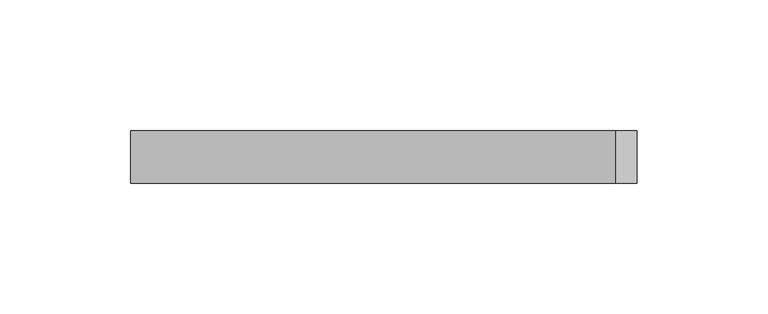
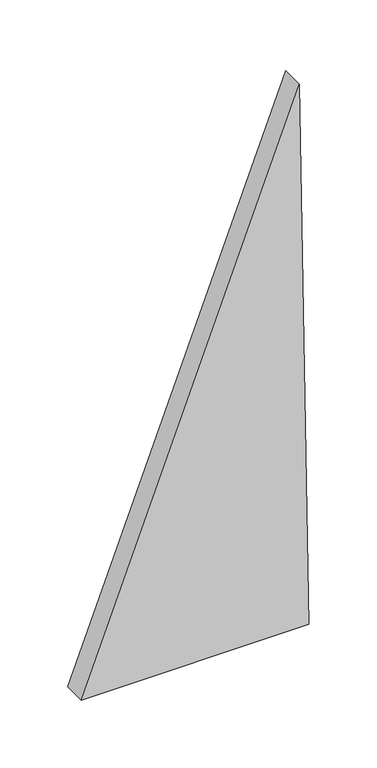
"""IFC4 building model written with IfcOpenShell, lengths in millimetres: plate geometry, 空系统嵌板 : 空."""

from ifc_helpers import new_model, si_unit, frame, origin, place, context, project, spatial, polyline, outline, extrude, source, transform, mapped, element, save


def plate_a8a21952(model_context):
    return source(origin(), model_context, "Body", "SweptSolid", [
        extrude(outline(polyline([(0.0, -96.8613091), (0.4316909, 96.8613091), (489.2822573, 88.845422), (0.0, -96.8613091)])), frame((0.0, -10.0, 0.0), z_axis=(0.0, 1.0, 0.0), x_axis=(0.0, 0.0, 1.0)), (0.0, 0.0, 1.0), 20.0),
    ])


if __name__ == "__main__":
    model = new_model("IFC4")
    model_context = context("Model", 3, world=origin())
    ifc_project = project(units=[si_unit("LENGTHUNIT", "METRE", prefix="MILLI")], contexts=[model_context])
    site = spatial("IfcSite", under=ifc_project)
    building = spatial("IfcBuilding", under=site)
    placement = place(None, origin())
    plate_shape = plate_a8a21952(model_context)
    element("IfcPlate", 1, ObjectType="空系统嵌板 : 空", at=placement, inside=building, context=model_context, shape_type="MappedRepresentation", body=[
        mapped(plate_shape, transform((0.0, 0.0, 0.0), x_axis=(1.0, 0.0, 0.0), y_axis=(0.0, 1.0, 0.0), z_axis=(0.0, 0.0, 1.0))),
    ])
    save(model, "model.ifc")
